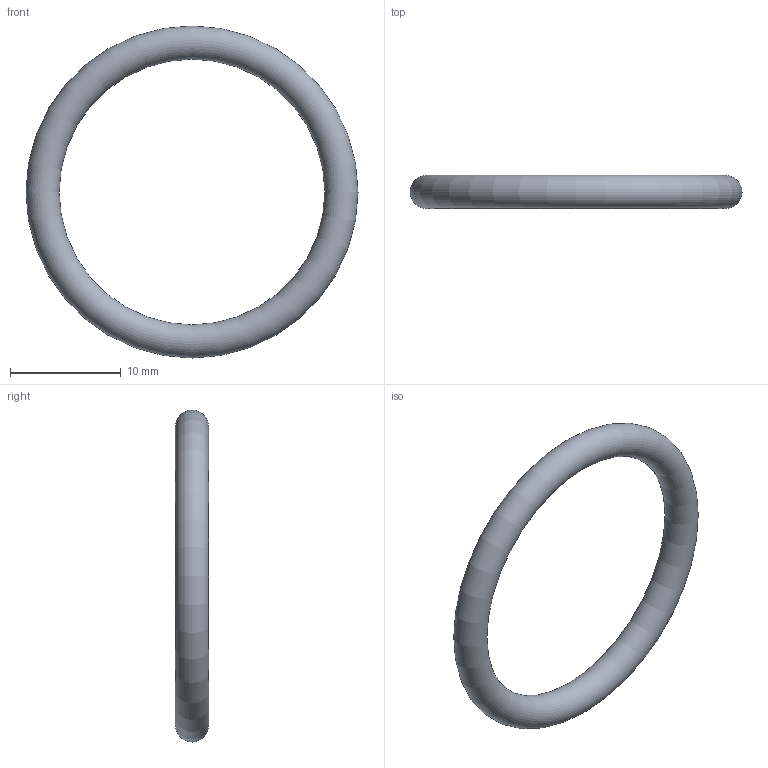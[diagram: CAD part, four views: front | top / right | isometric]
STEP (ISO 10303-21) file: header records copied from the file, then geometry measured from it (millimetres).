
FILE_DESCRIPTION( ( 'STEP AP203' ), '1' );
FILE_NAME( 'C:/Temp/Ganter_Step_05_03_2020/data/3_5/or638/O-Ring OR638-24.00-3.00-70.stp', '2020-03-12T13:44:29', ( 'License CC BY-ND 4.0' ), ( 'CADENAS' ), ' ', 'PARTsolutions', ' ' );
FILE_SCHEMA( ( 'CONFIG_CONTROL_DESIGN' ) );
Length unit declared in the file: millimetre
Products named in the file (1): _O-Ring OR638-24.00-3.00-70
Bounding box: 30 x 3 x 30 mm (x, y, z)
Volume: 599.6 mm3; surface area: 799.4 mm2
Topology: 1 solids, 1 shells, 1 faces, 2 edges, 1 vertices
Faces by surface type: torus 1
Entity records: 62 total; most frequent: CC_DESIGN_PERSON_AND_ORGANIZATION_ASSIGNMENT 5, PERSON_AND_ORGANIZATION_ROLE 4, DIRECTION 4, CARTESIAN_POINT 3, DATE_TIME_ROLE 2, CC_DESIGN_DATE_AND_TIME_ASSIGNMENT 2, AXIS2_PLACEMENT_3D 2, DIMENSIONAL_EXPONENTS 2
